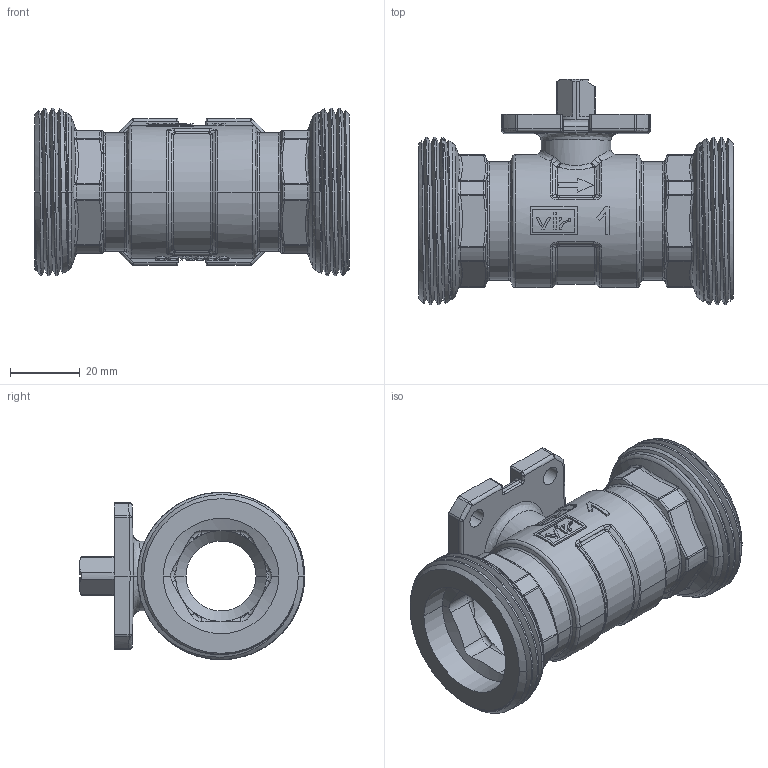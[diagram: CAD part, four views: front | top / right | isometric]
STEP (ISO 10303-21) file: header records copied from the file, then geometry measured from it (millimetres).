
FILE_DESCRIPTION((''),'2;1');
FILE_NAME('H988F0025_2346_SW0001','2015-05-11T',('64ciro'),('Vir spa'),'PRO/ENGINEER BY PARAMETRIC TECHNOLOGY CORPORATION, 2010280','PRO/ENGINEER BY PARAMETRIC TECHNOLOGY CORPORATION, 2010280','');
FILE_SCHEMA(('CONFIG_CONTROL_DESIGN'));
Products named in the file (1): H988F0025_2346_SW0001
Bounding box: 90 x 64.4 x 47.8 mm (x, y, z)
Volume: 70043.8 mm3; surface area: 36260.3 mm2
Topology: 1 solids, 1 shells, 1147 faces, 2912 edges, 1814 vertices
Faces by surface type: plane 544, cylinder 253, bspline 170, torus 94, cone 72, sphere 14
Entity records: 45399 total; most frequent: CARTESIAN_POINT 19988, ORIENTED_EDGE 5824, DIRECTION 4573, EDGE_CURVE 2912, VERTEX_POINT 1814, AXIS2_PLACEMENT_3D 1799, EDGE_LOOP 1208, FACE_OUTER_BOUND 1147
